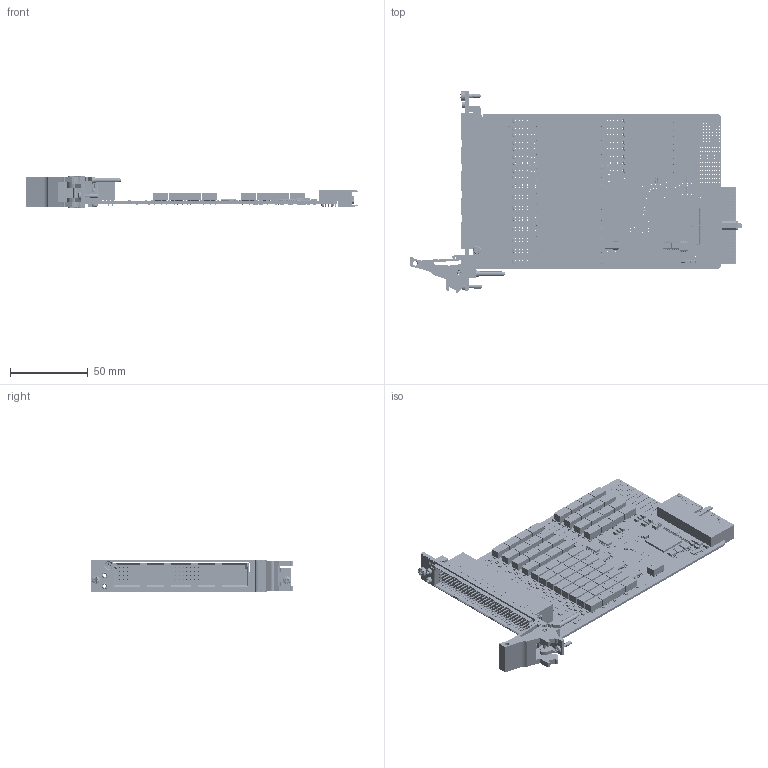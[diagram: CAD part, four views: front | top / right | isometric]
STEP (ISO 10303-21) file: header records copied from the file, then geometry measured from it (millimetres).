
FILE_DESCRIPTION (( 'STEP AP214' ), '1' );
FILE_NAME ('40-614D-007-M PXI High Density 2A Multiplexer 4-Bank 16-Channel 2-Pole.step', '2025-09-08T08:30:39', ( '' ), ( '' ), 'SwSTEP 2.0', 'SolidWorks 2023', '' );
FILE_SCHEMA (( 'AUTOMOTIVE_DESIGN' ));
Length unit declared in the file: millimetre
Products named in the file (65): C-RS-152 Res 10K 0603 1-16W 1% 300PPM; C-RS-659 RES NW 4K7 4RES 8PINS SMT1206; C-IC-425 SOICN 8PIN SD; L-FP-499-# Label for C-FP-499_Výchozí; C-CN-161 DIN 41612 160Way R-A Modified; C-CN-161 Pin_Row C; C-FX-1176 M2,5 Collar Posi-Slot Screw; C-IC-546 24 BIT BUS SWITCH 56PIN TVSOP; C-CN-161 Pin_Row A; C-CP-124 CAP 10nF CERAMIC SMT 0402; C-CP-141 CAP 10UF 1206 35V X5R 10%; C-FX-165 Handle Finger; C-FX-101 Screw, M2.5 x 6, Pan Hd, Pozi, Steel, BZP; C-FX-165 Handle Pin; C-IC-442 VSSOP 8PIN SD; A-PC-1522-007 PXI High Density 2A Multiplexer 4-Bank 16-Channel 2-Pole; C-RS-756 RES 0R 0603  200PPM; C-CN-107-BODY; C-CN-161 Pin_Row D; A-FP-499-L1 PXI 3U 1SLT 160Way FP Full Assembly; Z-FX-2001 FP Fixing - Bush + Screw; C-CP-099 CAP 0.1uF 16V 0402 SMT; C-CP-239  Power Line Filter; C-RS-147 Res 100R 0603 1-16W 1% 100PPM; C-IC-489 F-RAM Semiconductor Serial-I2C FRAM Memory 512kbit 2-3.6 V 8-Pin SOIC; C-CP-130 CAP 1uF CERAMIC SMT 0603; C-FX-165 CPCI Ejector Handle; C-IC-458 LDO VOLTAGE REGULATOR 1.2V SOT; C-RS-148 Res 1K 0603 1-16W 1% 100PPM; C-CN-355 Compact pci connector 3; C-RS-521 Res 120R (0603) 1-16W 1% 100pp; C-CN-161 Pin_Row B; C-CN-1071; C-FX-028 Nut, M2.5, Hex, Steel, BZP_C-FX-028 M2,5 Nut; C-SC-168 SOT363 Complementary MOSFET 20V-8V; C-CN-161 Housing; C-SC-146 Dual Transistor SOT-14; C-CP-175 CAP 22uF 1206 25V X5R 10%; C-FX-042 Screw M2.5x6 CSK Pozi_M 2.5x06 - C-FX-042; C-BP-015 PXI 3U x 1 Slot Blank Panel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
Assembly tree (564 placements, depth 5):
  40-614D-007-M PXI High Density 2A Multiplexer 4-Bank 16-Channel 2-Pole
    A-PC-1522-007 PXI High Density 2A Multiplexer 4-Bank 16-Channel 2-Pole
      A-PC-1522-007-# PXI High Density 2A Multiplexer 4-Bank 16-Channel 2-Pole
        C-PC-1522 PDM PXI Very High Density Multiplexer
        C-CP-034  x22
        C-RS-147 Res 100R 0603 1-16W 1% 100PPM
        C-RS-152 Res 10K 0603 1-16W 1% 300PPM  x2
        C-RS-190 Res 0R0 SIZE 0603 SMT  x6
        C-RS-756 RES 0R 0603  200PPM  x36
        C-SC-056 80V 250mA (DC) SOD323 Diode  x149
        C-SC-168 SOT363 Complementary MOSFET 20V-8V  x2
        C-IC-550 Voltage Difference Amplifier  x5
        C-RL-257 50Mw 5V Short Pin Relay_Diode clearance   x65
        C-CP-175 CAP 22uF 1206 25V X5R 10%  x2
        C-CP-141 CAP 10UF 1206 35V X5R 10%  x7
        C-CP-099 CAP 0.1uF 16V 0402 SMT  x12
        C-IC-489 F-RAM Semiconductor Serial-I2C FRAM Memory 512kbit 2-3.6 V 8-Pin SOIC
        C-IC-425 SOICN 8PIN SD
        C-IC-598 64Mbit Flash Memory 8-Pin SOIC
        C-IC-442 VSSOP 8PIN SD
        C-IC-458 LDO VOLTAGE REGULATOR 1.2V SOT
        C-IC-546 24 BIT BUS SWITCH 56PIN TVSOP  x2
        C-IC-369 FPGA 17000 Cells 65nm Technology 1.2V 256-Pin FTBGA
        C-RS-148 Res 1K 0603 1-16W 1% 100PPM  x2
        C-RS-659 RES NW 4K7 4RES 8PINS SMT1206  x4
        C-RS-521 Res 120R (0603) 1-16W 1% 100pp
        C-SC-146 Dual Transistor SOT-14  x2
        C-MS-803 BEAD 120R 0603 2A 0R05 25%  x2
        C-CN-1071
          C-CN-107-BODY
          C-CN-107-PIN  x8
        C-CP-124 CAP 10nF CERAMIC SMT 0402  x29
        C-CP-130 CAP 1uF CERAMIC SMT 0603  x2
        C-CP-139 CAP 4.7UF 1206 16V X7R 10%  x2
        C-CP-239  Power Line Filter  x3
        C-CN-355 Compact pci connector 3
    A-FP-499-L1 PXI 3U 1SLT 160Way FP Full Assembly
      A-FP-499 PXI 3U 1-Slot 160 Way DIN 41612
        C-FP-499 PXI 3U 1-Slot 160 Way DIN 41612
          C-BP-015 PXI 3U x 1 Slot Blank Panel
        L-FP-499 Label for C-FP-499 assy
          L-FP-499-# Label for C-FP-499_Výchozí
        C-FX-544 2.5 Self Clinching Tourque nut  x2
      C-FX-165 CPCI Ejector Handle
        C-FX-165 Handle Body
        C-FX-165 Handle Finger
        C-FX-165 Handle Pin
        P-FX-017 M2,5 Collar Posi-Slot Screw
        L-FX-165 PXI Handle Label
      C-FX-456 PXI 1-Slot Mtg Block DIN 41612
      C-FX-042 Screw M2.5x6 CSK Pozi_M 2.5x06 - C-FX-042
      Z-FX-2001 FP Fixing - Bush + Screw
        C-BK-026 Bush Front Panel Mounting
        C-FX-1176 M2,5 Collar Posi-Slot Screw
      C-FX-101 Screw, M2.5 x 6, Pan Hd, Pozi, Steel, BZP
    C-CN-161 DIN 41612 160Way R-A Modified
      C-CN-161 Housing
      C-CN-161 Pin_Row E  x32
      C-CN-161 Pin_Row D  x32
      C-CN-161 Pin_Row C  x32
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Bounding box: 213.7 x 129.63 x 20 mm (x, y, z)
Volume: 88298.3 mm3; surface area: 106310.5 mm2
Topology: 558 solids, 577 shells, 35219 faces, 88585 edges, 55420 vertices
Faces by surface type: plane 21729, cylinder 10699, sphere 1204, cone 844, torus 582, bspline 161
Entity records: 503804 total; most frequent: CARTESIAN_POINT 72546, DIRECTION 66971, ORIENTED_EDGE 62430, EDGE_CURVE 31217, AXIS2_PLACEMENT_3D 24845, VERTEX_POINT 20090, LINE 17281, VECTOR 17281
